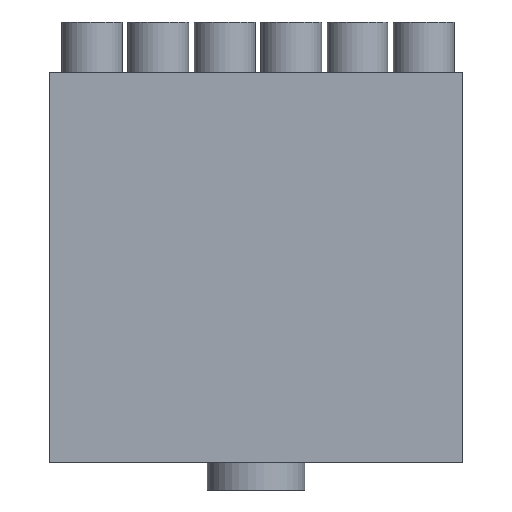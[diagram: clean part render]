
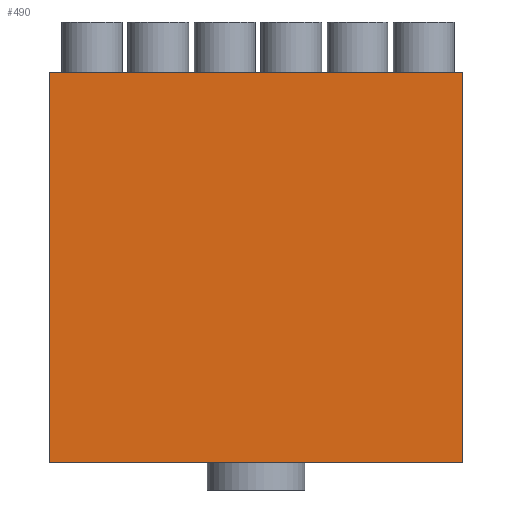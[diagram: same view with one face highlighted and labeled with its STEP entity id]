
A CAD part, front view. The second image highlights one B-rep face of the part: STEP entity #490.
In plain terms, the highlighted planar face has unit normal (0, -1, 0).
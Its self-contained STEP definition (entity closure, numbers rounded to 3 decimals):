
#17=LINE('',#740,#41);
#33=LINE('',#830,#57);
#36=LINE('',#834,#60);
#37=LINE('',#836,#61);
#41=VECTOR('',#596,10.);
#57=VECTOR('',#696,10.);
#60=VECTOR('',#701,10.);
#61=VECTOR('',#704,10.);
#79=PLANE('',#559);
#147=FACE_OUTER_BOUND('',#215,.T.);
#215=EDGE_LOOP('',(#434,#435,#436,#437));
#256=VERTEX_POINT('',#737);
#257=VERTEX_POINT('',#739);
#288=VERTEX_POINT('',#827);
#289=VERTEX_POINT('',#829);
#300=EDGE_CURVE('',#256,#257,#17,.T.);
#336=EDGE_CURVE('',#288,#289,#33,.T.);
#339=EDGE_CURVE('',#288,#257,#36,.T.);
#340=EDGE_CURVE('',#289,#256,#37,.T.);
#434=ORIENTED_EDGE('',*,*,#336,.F.);
#435=ORIENTED_EDGE('',*,*,#339,.T.);
#436=ORIENTED_EDGE('',*,*,#300,.F.);
#437=ORIENTED_EDGE('',*,*,#340,.F.);
#490=ADVANCED_FACE('',(#147),#79,.T.);
#559=AXIS2_PLACEMENT_3D('',#835,#702,#703);
#596=DIRECTION('',(1.,0.,0.));
#696=DIRECTION('',(-1.,0.,0.));
#701=DIRECTION('',(0.,0.,1.));
#702=DIRECTION('center_axis',(0.,-1.,0.));
#703=DIRECTION('ref_axis',(1.,0.,0.));
#704=DIRECTION('',(0.,0.,1.));
#737=CARTESIAN_POINT('',(-265.,-80.,500.));
#739=CARTESIAN_POINT('',(265.,-80.,500.));
#740=CARTESIAN_POINT('',(265.,-80.,500.));
#827=CARTESIAN_POINT('',(265.,-80.,0.));
#829=CARTESIAN_POINT('',(-265.,-80.,0.));
#830=CARTESIAN_POINT('',(265.,-80.,0.));
#834=CARTESIAN_POINT('',(265.,-80.,0.));
#835=CARTESIAN_POINT('Origin',(-265.,-80.,0.));
#836=CARTESIAN_POINT('',(-265.,-80.,0.));
